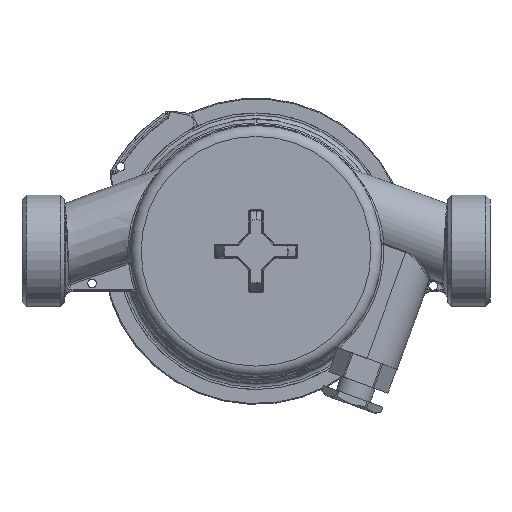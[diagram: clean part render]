
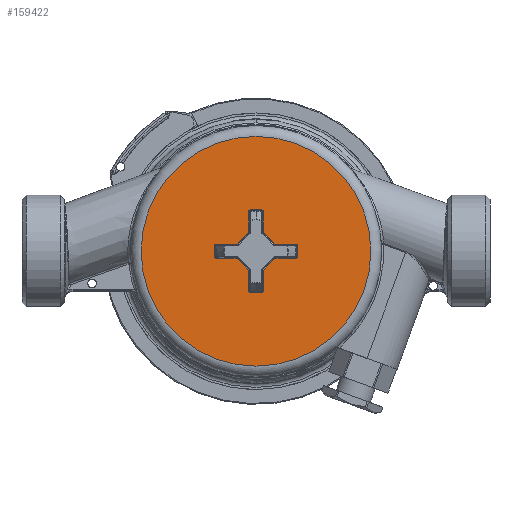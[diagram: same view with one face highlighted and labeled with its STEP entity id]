
A CAD part, front view. The second image highlights one B-rep face of the part: STEP entity #159422.
In plain terms, the highlighted planar face has unit normal (0, -1, 0).
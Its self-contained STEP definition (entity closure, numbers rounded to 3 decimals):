
#91010=CARTESIAN_POINT('',(0.,-14.8,27.));
#91011=VERTEX_POINT('',#91010);
#91021=CARTESIAN_POINT('',(-0.,-14.8,-0.));
#91022=DIRECTION('',(-0.,-1.,-0.));
#91023=DIRECTION('',(0.,-0.,1.));
#91024=AXIS2_PLACEMENT_3D('',#91021,#91022,#91023);
#91025=CIRCLE('',#91024,27.);
#91026=EDGE_CURVE('',#91011,#91011,#91025,.T.);
#159212=CARTESIAN_POINT('',(0.,-14.8,10.));
#159213=DIRECTION('',(-0.,-1.,-0.));
#159214=DIRECTION('',(0.,-0.,1.));
#159215=AXIS2_PLACEMENT_3D('',#159212,#159213,#159214);
#159216=PLANE('',#159215);
#159217=ORIENTED_EDGE('',*,*,#91026,.T.);
#159218=EDGE_LOOP('',(#159217));
#159219=FACE_BOUND('',#159218,.T.);
#159220=CARTESIAN_POINT('',(4.443,-14.8,-1.7));
#159221=VERTEX_POINT('',#159220);
#159222=CARTESIAN_POINT('',(9.3,-14.8,-1.7));
#159223=VERTEX_POINT('',#159222);
#159224=CARTESIAN_POINT('',(4.443,-14.8,-1.7));
#159225=DIRECTION('',(1.,-0.,-0.));
#159226=VECTOR('',#159225,4.857);
#159227=LINE('',#159224,#159226);
#159228=EDGE_CURVE('',#159221,#159223,#159227,.T.);
#159229=ORIENTED_EDGE('',*,*,#159228,.F.);
#159230=CARTESIAN_POINT('',(1.7,-14.8,-4.443));
#159231=VERTEX_POINT('',#159230);
#159232=CARTESIAN_POINT('',(1.7,-14.8,-4.443));
#159233=DIRECTION('',(0.707,-0.,0.707));
#159234=VECTOR('',#159233,3.879);
#159235=LINE('',#159232,#159234);
#159236=EDGE_CURVE('',#159231,#159221,#159235,.T.);
#159237=ORIENTED_EDGE('',*,*,#159236,.F.);
#159238=CARTESIAN_POINT('',(1.7,-14.8,-9.3));
#159239=VERTEX_POINT('',#159238);
#159240=CARTESIAN_POINT('',(1.7,-14.8,-9.3));
#159241=DIRECTION('',(0.,-0.,1.));
#159242=VECTOR('',#159241,4.857);
#159243=LINE('',#159240,#159242);
#159244=EDGE_CURVE('',#159239,#159231,#159243,.T.);
#159245=ORIENTED_EDGE('',*,*,#159244,.F.);
#159246=CARTESIAN_POINT('',(1.3,-14.8,-9.7));
#159247=VERTEX_POINT('',#159246);
#159248=CARTESIAN_POINT('',(1.3,-14.8,-9.3));
#159249=DIRECTION('',(-0.,-1.,-0.));
#159250=DIRECTION('',(0.,-0.,1.));
#159251=AXIS2_PLACEMENT_3D('',#159248,#159249,#159250);
#159252=CIRCLE('',#159251,0.4);
#159253=EDGE_CURVE('',#159247,#159239,#159252,.T.);
#159254=ORIENTED_EDGE('',*,*,#159253,.F.);
#159255=CARTESIAN_POINT('',(-1.3,-14.8,-9.7));
#159256=VERTEX_POINT('',#159255);
#159257=CARTESIAN_POINT('',(-1.3,-14.8,-9.7));
#159258=DIRECTION('',(1.,-0.,-0.));
#159259=VECTOR('',#159258,2.6);
#159260=LINE('',#159257,#159259);
#159261=EDGE_CURVE('',#159256,#159247,#159260,.T.);
#159262=ORIENTED_EDGE('',*,*,#159261,.F.);
#159263=CARTESIAN_POINT('',(-1.7,-14.8,-9.3));
#159264=VERTEX_POINT('',#159263);
#159265=CARTESIAN_POINT('',(-1.3,-14.8,-9.3));
#159266=DIRECTION('',(-0.,-1.,-0.));
#159267=DIRECTION('',(0.,-0.,1.));
#159268=AXIS2_PLACEMENT_3D('',#159265,#159266,#159267);
#159269=CIRCLE('',#159268,0.4);
#159270=EDGE_CURVE('',#159264,#159256,#159269,.T.);
#159271=ORIENTED_EDGE('',*,*,#159270,.F.);
#159272=CARTESIAN_POINT('',(-1.7,-14.8,-4.443));
#159273=VERTEX_POINT('',#159272);
#159274=CARTESIAN_POINT('',(-1.7,-14.8,-4.443));
#159275=DIRECTION('',(-0.,0.,-1.));
#159276=VECTOR('',#159275,4.857);
#159277=LINE('',#159274,#159276);
#159278=EDGE_CURVE('',#159273,#159264,#159277,.T.);
#159279=ORIENTED_EDGE('',*,*,#159278,.F.);
#159280=CARTESIAN_POINT('',(-4.443,-14.8,-1.7));
#159281=VERTEX_POINT('',#159280);
#159282=CARTESIAN_POINT('',(-4.443,-14.8,-1.7));
#159283=DIRECTION('',(0.707,0.,-0.707));
#159284=VECTOR('',#159283,3.879);
#159285=LINE('',#159282,#159284);
#159286=EDGE_CURVE('',#159281,#159273,#159285,.T.);
#159287=ORIENTED_EDGE('',*,*,#159286,.F.);
#159288=CARTESIAN_POINT('',(-9.3,-14.8,-1.7));
#159289=VERTEX_POINT('',#159288);
#159290=CARTESIAN_POINT('',(-9.3,-14.8,-1.7));
#159291=DIRECTION('',(1.,-0.,-0.));
#159292=VECTOR('',#159291,4.857);
#159293=LINE('',#159290,#159292);
#159294=EDGE_CURVE('',#159289,#159281,#159293,.T.);
#159295=ORIENTED_EDGE('',*,*,#159294,.F.);
#159296=CARTESIAN_POINT('',(-9.7,-14.8,-1.3));
#159297=VERTEX_POINT('',#159296);
#159298=CARTESIAN_POINT('',(-9.3,-14.8,-1.3));
#159299=DIRECTION('',(-0.,-1.,-0.));
#159300=DIRECTION('',(0.,-0.,1.));
#159301=AXIS2_PLACEMENT_3D('',#159298,#159299,#159300);
#159302=CIRCLE('',#159301,0.4);
#159303=EDGE_CURVE('',#159297,#159289,#159302,.T.);
#159304=ORIENTED_EDGE('',*,*,#159303,.F.);
#159305=CARTESIAN_POINT('',(-9.7,-14.8,1.3));
#159306=VERTEX_POINT('',#159305);
#159307=CARTESIAN_POINT('',(-9.7,-14.8,1.3));
#159308=DIRECTION('',(-0.,0.,-1.));
#159309=VECTOR('',#159308,2.6);
#159310=LINE('',#159307,#159309);
#159311=EDGE_CURVE('',#159306,#159297,#159310,.T.);
#159312=ORIENTED_EDGE('',*,*,#159311,.F.);
#159313=CARTESIAN_POINT('',(-9.3,-14.8,1.7));
#159314=VERTEX_POINT('',#159313);
#159315=CARTESIAN_POINT('',(-9.3,-14.8,1.3));
#159316=DIRECTION('',(-0.,-1.,-0.));
#159317=DIRECTION('',(0.,-0.,1.));
#159318=AXIS2_PLACEMENT_3D('',#159315,#159316,#159317);
#159319=CIRCLE('',#159318,0.4);
#159320=EDGE_CURVE('',#159314,#159306,#159319,.T.);
#159321=ORIENTED_EDGE('',*,*,#159320,.F.);
#159322=CARTESIAN_POINT('',(-4.443,-14.8,1.7));
#159323=VERTEX_POINT('',#159322);
#159324=CARTESIAN_POINT('',(-4.443,-14.8,1.7));
#159325=DIRECTION('',(-1.,0.,0.));
#159326=VECTOR('',#159325,4.857);
#159327=LINE('',#159324,#159326);
#159328=EDGE_CURVE('',#159323,#159314,#159327,.T.);
#159329=ORIENTED_EDGE('',*,*,#159328,.F.);
#159330=CARTESIAN_POINT('',(-1.7,-14.8,4.443));
#159331=VERTEX_POINT('',#159330);
#159332=CARTESIAN_POINT('',(-1.7,-14.8,4.443));
#159333=DIRECTION('',(-0.707,0.,-0.707));
#159334=VECTOR('',#159333,3.879);
#159335=LINE('',#159332,#159334);
#159336=EDGE_CURVE('',#159331,#159323,#159335,.T.);
#159337=ORIENTED_EDGE('',*,*,#159336,.F.);
#159338=CARTESIAN_POINT('',(-1.7,-14.8,9.3));
#159339=VERTEX_POINT('',#159338);
#159340=CARTESIAN_POINT('',(-1.7,-14.8,9.3));
#159341=DIRECTION('',(-0.,0.,-1.));
#159342=VECTOR('',#159341,4.857);
#159343=LINE('',#159340,#159342);
#159344=EDGE_CURVE('',#159339,#159331,#159343,.T.);
#159345=ORIENTED_EDGE('',*,*,#159344,.F.);
#159346=CARTESIAN_POINT('',(-1.3,-14.8,9.7));
#159347=VERTEX_POINT('',#159346);
#159348=CARTESIAN_POINT('',(-1.3,-14.8,9.3));
#159349=DIRECTION('',(-0.,-1.,-0.));
#159350=DIRECTION('',(0.,-0.,1.));
#159351=AXIS2_PLACEMENT_3D('',#159348,#159349,#159350);
#159352=CIRCLE('',#159351,0.4);
#159353=EDGE_CURVE('',#159347,#159339,#159352,.T.);
#159354=ORIENTED_EDGE('',*,*,#159353,.F.);
#159355=CARTESIAN_POINT('',(1.3,-14.8,9.7));
#159356=VERTEX_POINT('',#159355);
#159357=CARTESIAN_POINT('',(1.3,-14.8,9.7));
#159358=DIRECTION('',(-1.,0.,0.));
#159359=VECTOR('',#159358,2.6);
#159360=LINE('',#159357,#159359);
#159361=EDGE_CURVE('',#159356,#159347,#159360,.T.);
#159362=ORIENTED_EDGE('',*,*,#159361,.F.);
#159363=CARTESIAN_POINT('',(1.7,-14.8,9.3));
#159364=VERTEX_POINT('',#159363);
#159365=CARTESIAN_POINT('',(1.3,-14.8,9.3));
#159366=DIRECTION('',(-0.,-1.,-0.));
#159367=DIRECTION('',(0.,-0.,1.));
#159368=AXIS2_PLACEMENT_3D('',#159365,#159366,#159367);
#159369=CIRCLE('',#159368,0.4);
#159370=EDGE_CURVE('',#159364,#159356,#159369,.T.);
#159371=ORIENTED_EDGE('',*,*,#159370,.F.);
#159372=CARTESIAN_POINT('',(1.7,-14.8,4.443));
#159373=VERTEX_POINT('',#159372);
#159374=CARTESIAN_POINT('',(1.7,-14.8,4.443));
#159375=DIRECTION('',(0.,-0.,1.));
#159376=VECTOR('',#159375,4.857);
#159377=LINE('',#159374,#159376);
#159378=EDGE_CURVE('',#159373,#159364,#159377,.T.);
#159379=ORIENTED_EDGE('',*,*,#159378,.F.);
#159380=CARTESIAN_POINT('',(4.443,-14.8,1.7));
#159381=VERTEX_POINT('',#159380);
#159382=CARTESIAN_POINT('',(4.443,-14.8,1.7));
#159383=DIRECTION('',(-0.707,-0.,0.707));
#159384=VECTOR('',#159383,3.879);
#159385=LINE('',#159382,#159384);
#159386=EDGE_CURVE('',#159381,#159373,#159385,.T.);
#159387=ORIENTED_EDGE('',*,*,#159386,.F.);
#159388=CARTESIAN_POINT('',(9.3,-14.8,1.7));
#159389=VERTEX_POINT('',#159388);
#159390=CARTESIAN_POINT('',(9.3,-14.8,1.7));
#159391=DIRECTION('',(-1.,0.,0.));
#159392=VECTOR('',#159391,4.857);
#159393=LINE('',#159390,#159392);
#159394=EDGE_CURVE('',#159389,#159381,#159393,.T.);
#159395=ORIENTED_EDGE('',*,*,#159394,.F.);
#159396=CARTESIAN_POINT('',(9.7,-14.8,1.3));
#159397=VERTEX_POINT('',#159396);
#159398=CARTESIAN_POINT('',(9.3,-14.8,1.3));
#159399=DIRECTION('',(-0.,-1.,-0.));
#159400=DIRECTION('',(0.,-0.,1.));
#159401=AXIS2_PLACEMENT_3D('',#159398,#159399,#159400);
#159402=CIRCLE('',#159401,0.4);
#159403=EDGE_CURVE('',#159397,#159389,#159402,.T.);
#159404=ORIENTED_EDGE('',*,*,#159403,.F.);
#159405=CARTESIAN_POINT('',(9.7,-14.8,-1.3));
#159406=VERTEX_POINT('',#159405);
#159407=CARTESIAN_POINT('',(9.7,-14.8,-1.3));
#159408=DIRECTION('',(0.,-0.,1.));
#159409=VECTOR('',#159408,2.6);
#159410=LINE('',#159407,#159409);
#159411=EDGE_CURVE('',#159406,#159397,#159410,.T.);
#159412=ORIENTED_EDGE('',*,*,#159411,.F.);
#159413=CARTESIAN_POINT('',(9.3,-14.8,-1.3));
#159414=DIRECTION('',(-0.,-1.,-0.));
#159415=DIRECTION('',(0.,-0.,1.));
#159416=AXIS2_PLACEMENT_3D('',#159413,#159414,#159415);
#159417=CIRCLE('',#159416,0.4);
#159418=EDGE_CURVE('',#159223,#159406,#159417,.T.);
#159419=ORIENTED_EDGE('',*,*,#159418,.F.);
#159420=EDGE_LOOP('',(#159229,#159237,#159245,#159254,#159262,#159271,#159279,#159287,#159295,#159304,#159312,#159321,#159329,#159337,#159345,#159354,#159362,#159371,#159379,#159387,#159395,#159404,#159412,#159419));
#159421=FACE_BOUND('',#159420,.T.);
#159422=ADVANCED_FACE('',(#159219,#159421),#159216,.T.);
